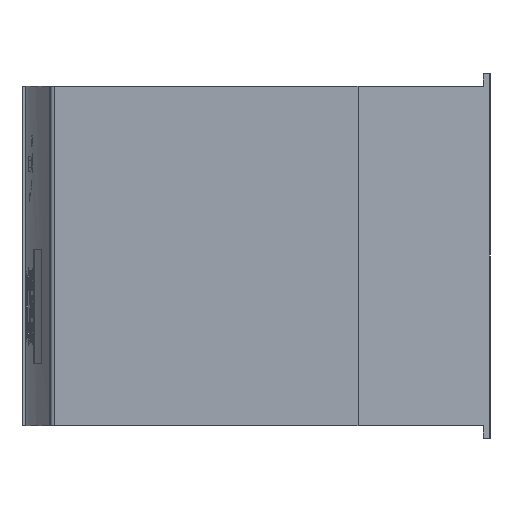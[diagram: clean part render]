
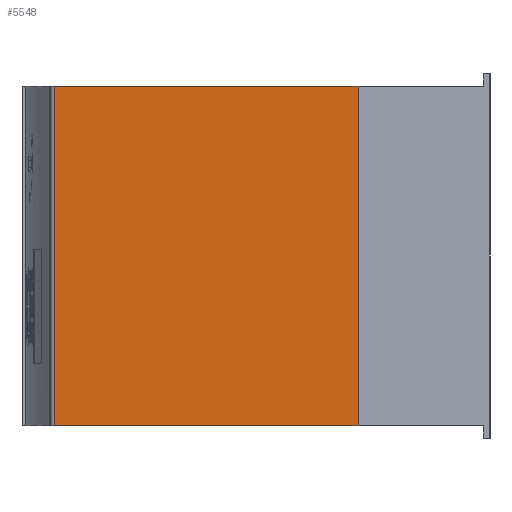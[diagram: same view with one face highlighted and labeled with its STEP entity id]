
A CAD part, left-side view. The second image highlights one B-rep face of the part: STEP entity #5548.
In plain terms, the highlighted planar face has unit normal (-0.998, 0.058, 0).
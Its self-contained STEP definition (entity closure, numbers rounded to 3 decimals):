
#52 = VERTEX_POINT ( 'NONE', #6964 ) ;
#125 = CARTESIAN_POINT ( 'NONE',  ( -100.443, 147.221, 197. ) ) ;
#225 = CARTESIAN_POINT ( 'NONE',  ( -100.443, 147.221, 0. ) ) ;
#415 = VERTEX_POINT ( 'NONE', #12415 ) ;
#501 = CARTESIAN_POINT ( 'NONE',  ( -110.687, -28.906, 197. ) ) ;
#576 = VERTEX_POINT ( 'NONE', #7616 ) ;
#858 = CARTESIAN_POINT ( 'NONE',  ( -100.443, 147.221, 197. ) ) ;
#1265 = EDGE_CURVE ( 'NONE', #6433, #6999, #7820, .T. ) ;
#1307 = EDGE_CURVE ( 'NONE', #576, #52, #2275, .T. ) ;
#1332 = LINE ( 'NONE', #225, #10737 ) ;
#1466 = ORIENTED_EDGE ( 'NONE', *, *, #11058, .T. ) ;
#1829 = CARTESIAN_POINT ( 'NONE',  ( -110.687, -28.906, 5.628 ) ) ;
#1913 = CARTESIAN_POINT ( 'NONE',  ( -110.687, -28.906, 197. ) ) ;
#2246 = AXIS2_PLACEMENT_3D ( 'NONE', #8874, #12086, #4828 ) ;
#2275 = LINE ( 'NONE', #3129, #7048 ) ;
#2373 = ORIENTED_EDGE ( 'NONE', *, *, #4714, .F. ) ;
#2741 = ORIENTED_EDGE ( 'NONE', *, *, #12021, .F. ) ;
#3129 = CARTESIAN_POINT ( 'NONE',  ( -110.687, -28.906, 197. ) ) ;
#3251 = CARTESIAN_POINT ( 'NONE',  ( -110.687, -28.906, 191.372 ) ) ;
#3435 = VECTOR ( 'NONE', #6171, 1000. ) ;
#3806 = EDGE_LOOP ( 'NONE', ( #1466, #5304, #6960, #11954, #2373, #9733, #2741, #5294 ) ) ;
#4030 = CARTESIAN_POINT ( 'NONE',  ( -110.687, -28.906, 0. ) ) ;
#4060 = VERTEX_POINT ( 'NONE', #4030 ) ;
#4204 = DIRECTION ( 'NONE',  ( 0., 0., -1. ) ) ;
#4668 = EDGE_CURVE ( 'NONE', #6999, #4060, #11865, .T. ) ;
#4714 = EDGE_CURVE ( 'NONE', #52, #12611, #12180, .T. ) ;
#4828 = DIRECTION ( 'NONE',  ( 0.058, 0.998, 0. ) ) ;
#5294 = ORIENTED_EDGE ( 'NONE', *, *, #11296, .T. ) ;
#5304 = ORIENTED_EDGE ( 'NONE', *, *, #4668, .F. ) ;
#5490 = CARTESIAN_POINT ( 'NONE',  ( -110.687, -28.906, 1.872 ) ) ;
#5548 = ADVANCED_FACE ( 'NONE', ( #7353 ), #9048, .F. ) ;
#6171 = DIRECTION ( 'NONE',  ( 0., 0., -1. ) ) ;
#6396 = CARTESIAN_POINT ( 'NONE',  ( -110.687, -28.906, 197. ) ) ;
#6433 = VERTEX_POINT ( 'NONE', #1829 ) ;
#6764 = LINE ( 'NONE', #858, #9724 ) ;
#6863 = VERTEX_POINT ( 'NONE', #13310 ) ;
#6960 = ORIENTED_EDGE ( 'NONE', *, *, #1265, .F. ) ;
#6964 = CARTESIAN_POINT ( 'NONE',  ( -110.687, -28.906, 195.128 ) ) ;
#6999 = VERTEX_POINT ( 'NONE', #5490 ) ;
#7048 = VECTOR ( 'NONE', #7344, 1000. ) ;
#7344 = DIRECTION ( 'NONE',  ( 0., 0., -1. ) ) ;
#7353 = FACE_OUTER_BOUND ( 'NONE', #3806, .T. ) ;
#7616 = CARTESIAN_POINT ( 'NONE',  ( -110.687, -28.906, 197. ) ) ;
#7802 = LINE ( 'NONE', #501, #8484 ) ;
#7820 = LINE ( 'NONE', #9194, #10184 ) ;
#8484 = VECTOR ( 'NONE', #11041, 1000. ) ;
#8874 = CARTESIAN_POINT ( 'NONE',  ( -100.443, 147.221, 197. ) ) ;
#9048 = PLANE ( 'NONE',  #2246 ) ;
#9147 = DIRECTION ( 'NONE',  ( 0., 0., -1. ) ) ;
#9194 = CARTESIAN_POINT ( 'NONE',  ( -110.687, -28.906, 197. ) ) ;
#9255 = DIRECTION ( 'NONE',  ( 0., 0., -1. ) ) ;
#9685 = DIRECTION ( 'NONE',  ( -0.058, -0.998, 0. ) ) ;
#9724 = VECTOR ( 'NONE', #9255, 1000. ) ;
#9733 = ORIENTED_EDGE ( 'NONE', *, *, #1307, .F. ) ;
#10184 = VECTOR ( 'NONE', #9147, 1000. ) ;
#10379 = EDGE_CURVE ( 'NONE', #12611, #6433, #7802, .T. ) ;
#10601 = VECTOR ( 'NONE', #11578, 1000. ) ;
#10737 = VECTOR ( 'NONE', #9685, 1000. ) ;
#10774 = LINE ( 'NONE', #125, #10601 ) ;
#11041 = DIRECTION ( 'NONE',  ( 0., 0., -1. ) ) ;
#11058 = EDGE_CURVE ( 'NONE', #415, #4060, #1332, .T. ) ;
#11296 = EDGE_CURVE ( 'NONE', #6863, #415, #6764, .T. ) ;
#11578 = DIRECTION ( 'NONE',  ( -0.058, -0.998, 0. ) ) ;
#11865 = LINE ( 'NONE', #1913, #3435 ) ;
#11954 = ORIENTED_EDGE ( 'NONE', *, *, #10379, .F. ) ;
#12021 = EDGE_CURVE ( 'NONE', #6863, #576, #10774, .T. ) ;
#12086 = DIRECTION ( 'NONE',  ( 0.998, -0.058, 0. ) ) ;
#12180 = LINE ( 'NONE', #6396, #12356 ) ;
#12356 = VECTOR ( 'NONE', #4204, 1000. ) ;
#12415 = CARTESIAN_POINT ( 'NONE',  ( -100.443, 147.221, 0. ) ) ;
#12611 = VERTEX_POINT ( 'NONE', #3251 ) ;
#13310 = CARTESIAN_POINT ( 'NONE',  ( -100.443, 147.221, 197. ) ) ;
